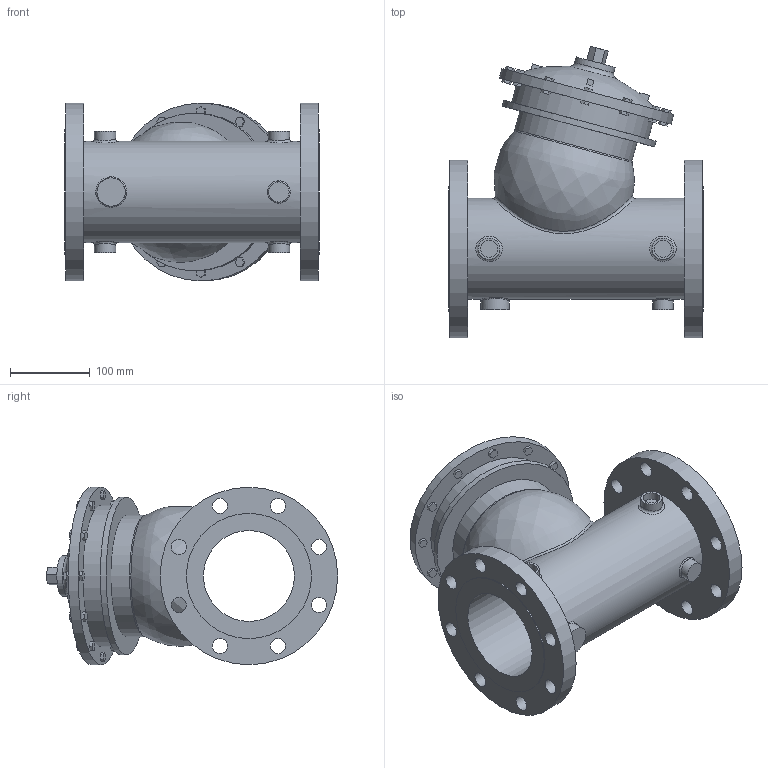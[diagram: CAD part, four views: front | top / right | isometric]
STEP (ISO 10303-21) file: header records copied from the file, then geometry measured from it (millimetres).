
FILE_DESCRIPTION(/* description */ ('VIC FP VALVE PRESSURE RELIEF SERIES 867-7UF (FLG 150)','CAx-IF Rec.Pracs.---Representation and Presentation of Product Manufacturing Information (PMI)---4.0---2014-10-13'),/* implementation_level */ '2;1');
FILE_NAME(/* name */ 'C:\Series 867-7UF\New folder (2)\step\Victaulic_FP-Bermad_Valve Pressure Relief_Series 867-7UF (FLG 150)\Victaulic_FP-Bermad_Valve Pressure Relief_Series 867-7UF (FLG 150)_4 (100).stp',/* time_stamp */ '2021-09-02T12:09:12+06:00',/* author */ ('kkamble'),/* organization */ ('Victaulic'),/* preprocessor_version */ 'ST-DEVELOPER v17.2',/* originating_system */ 'Autodesk Inventor 2019',/* authorisation */ '');
FILE_SCHEMA (('AP242_MANAGED_MODEL_BASED_3D_ENGINEERING_MIM_LF { 1 0 10303 442 1 1 4 }'));
Length unit declared in the file: inch
Products named in the file (1): 867-7UF-04.0
Bounding box: 320.04 x 366.01 x 223.52 mm (x, y, z)
Volume: 5936169.6 mm3; surface area: 539333.5 mm2
Topology: 1 solids, 1 shells, 264 faces, 676 edges, 459 vertices
Faces by surface type: plane 216, cylinder 37, bspline 9, torus 2
Full cylindrical faces by diameter (mm): 19.05 x16, 21.336 x4, 25.4 x1, 26.873 x4, 35.56 x1, 50.8 x1, 114.3 x1, 127 x1, 152.4 x1, 157.226 x2, 177.8 x1, 198.12 x1, 223.012 x2, 223.52 x1
Entity records: 9526 total; most frequent: CARTESIAN_POINT 2583, ORIENTED_EDGE 1364, DIRECTION 1283, EDGE_CURVE 682, LINE 527, VECTOR 527, VERTEX_POINT 465, AXIS2_PLACEMENT_3D 378
